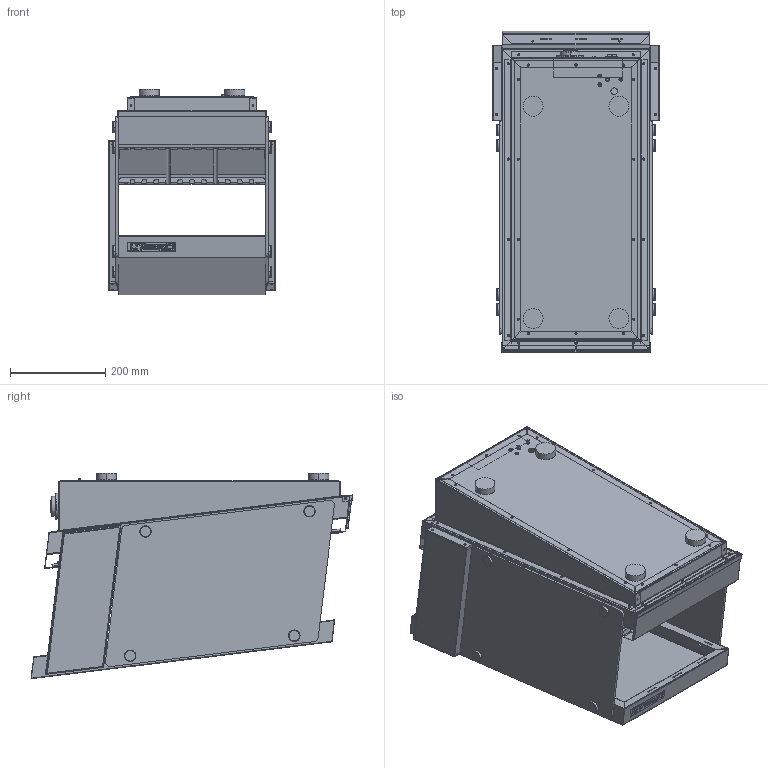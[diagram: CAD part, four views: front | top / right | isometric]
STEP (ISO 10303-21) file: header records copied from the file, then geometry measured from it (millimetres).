
FILE_DESCRIPTION (( 'STEP AP214' ), '1' );
FILE_NAME ('pres_CBIN351.STEP', '2024-12-17T15:39:24', ( '' ), ( '' ), 'SwSTEP 2.0', 'SolidWorks 2025', '' );
FILE_SCHEMA (( 'AUTOMOTIVE_DESIGN' ));
Length unit declared in the file: millimetre
Products named in the file (1): pres_CBIN351
Bounding box: 350.2 x 674.89 x 430.73 mm (x, y, z)
Volume: 3290906.1 mm3; surface area: 3854393.4 mm2
Topology: 58 solids, 58 shells, 2748 faces, 6981 edges, 4393 vertices
Faces by surface type: plane 1431, cylinder 893, bspline 245, sphere 113, torus 56, cone 10
Entity records: 114746 total; most frequent: CARTESIAN_POINT 45772, ORIENTED_EDGE 13938, DIRECTION 13303, EDGE_CURVE 6969, AXIS2_PLACEMENT_3D 4703, VERTEX_POINT 4393, LINE 3897, VECTOR 3897
